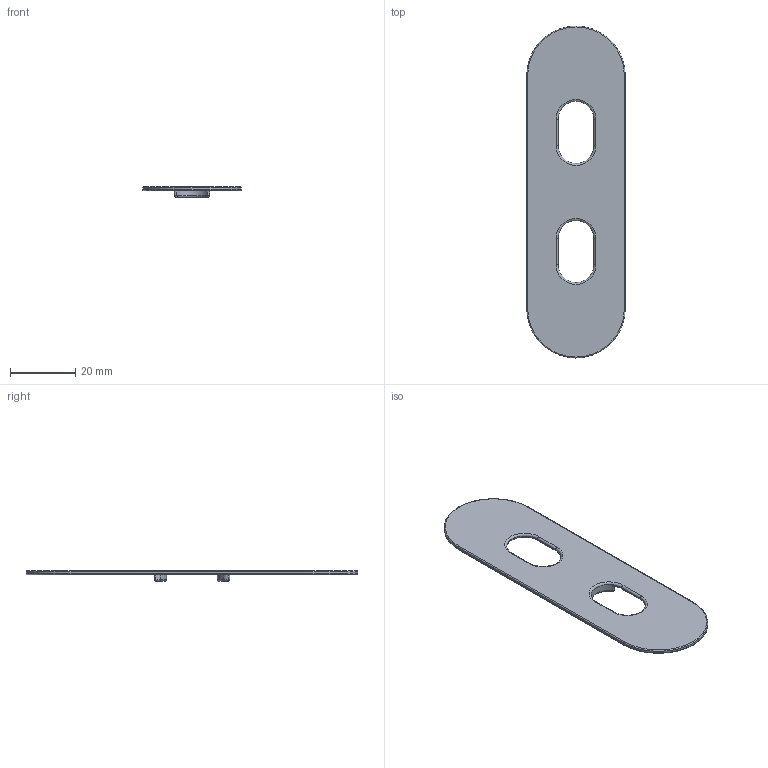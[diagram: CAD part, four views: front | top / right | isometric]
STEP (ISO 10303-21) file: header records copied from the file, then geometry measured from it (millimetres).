
FILE_DESCRIPTION((''),'2;1');
FILE_NAME('LOAD-CAP1','2021-03-24T',('Saeed'),(''),'PRO/ENGINEER BY PARAMETRIC TECHNOLOGY CORPORATION, 2012130','PRO/ENGINEER BY PARAMETRIC TECHNOLOGY CORPORATION, 2012130','');
FILE_SCHEMA(('CONFIG_CONTROL_DESIGN'));
Length unit declared in the file: millimetre
Products named in the file (1): LOAD-CAP1
Bounding box: 30.2 x 101.7 x 3.2 mm (x, y, z)
Volume: 3040.5 mm3; surface area: 5425.6 mm2
Topology: 1 solids, 1 shells, 64 faces, 150 edges, 88 vertices
Faces by surface type: cylinder 28, torus 22, plane 10, bspline 4
Entity records: 2514 total; most frequent: CARTESIAN_POINT 980, DIRECTION 344, ORIENTED_EDGE 300, EDGE_CURVE 150, AXIS2_PLACEMENT_3D 148, VERTEX_POINT 88, CIRCLE 88, EDGE_LOOP 68
